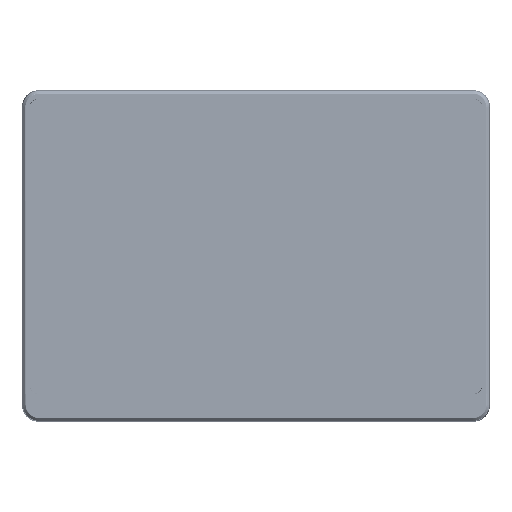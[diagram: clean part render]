
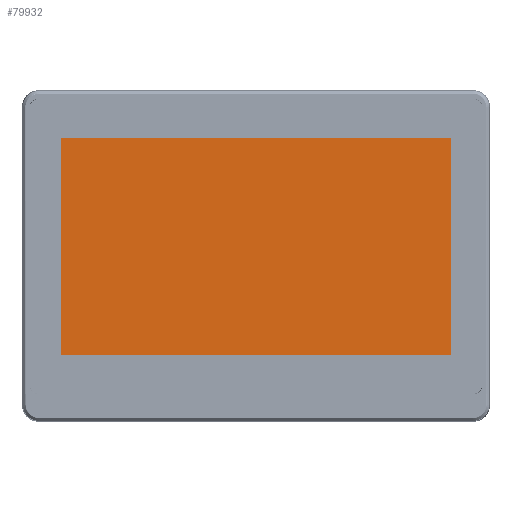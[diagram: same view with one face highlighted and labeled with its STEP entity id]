
A CAD part, top view. The second image highlights one B-rep face of the part: STEP entity #79932.
In plain terms, the highlighted planar face has unit normal (0, 0, 1).
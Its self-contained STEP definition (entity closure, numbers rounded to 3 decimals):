
#5214=DIRECTION('',(0.,1.,0.));
#5215=VECTOR('',#5214,85.92);
#5216=CARTESIAN_POINT('',(-77.105,-39.16,-0.2));
#5217=LINE('',#5216,#5215);
#5218=DIRECTION('',(1.,0.,0.));
#5219=VECTOR('',#5218,154.21);
#5220=CARTESIAN_POINT('',(-77.105,46.76,-0.2));
#5221=LINE('',#5220,#5219);
#5222=DIRECTION('',(0.,-1.,0.));
#5223=VECTOR('',#5222,85.92);
#5224=CARTESIAN_POINT('',(77.105,46.76,-0.2));
#5225=LINE('',#5224,#5223);
#5226=DIRECTION('',(-1.,0.,0.));
#5227=VECTOR('',#5226,154.21);
#5228=CARTESIAN_POINT('',(77.105,-39.16,-0.2));
#5229=LINE('',#5228,#5227);
#71865=CARTESIAN_POINT('',(-77.105,46.76,-0.2));
#71866=VERTEX_POINT('',#71865);
#71867=CARTESIAN_POINT('',(-77.105,-39.16,-0.2));
#71868=VERTEX_POINT('',#71867);
#71869=CARTESIAN_POINT('',(77.105,46.76,-0.2));
#71870=VERTEX_POINT('',#71869);
#71871=CARTESIAN_POINT('',(77.105,-39.16,-0.2));
#71872=VERTEX_POINT('',#71871);
#79921=CARTESIAN_POINT('',(0.,3.8,-0.2));
#79922=DIRECTION('',(0.,0.,1.));
#79923=DIRECTION('',(-1.,0.,0.));
#79924=AXIS2_PLACEMENT_3D('',#79921,#79922,#79923);
#79925=PLANE('',#79924);
#79926=ORIENTED_EDGE('',*,*,#79873,.T.);
#79927=ORIENTED_EDGE('',*,*,#79888,.T.);
#79928=ORIENTED_EDGE('',*,*,#79902,.T.);
#79929=ORIENTED_EDGE('',*,*,#79915,.T.);
#79930=EDGE_LOOP('',(#79926,#79927,#79928,#79929));
#79931=FACE_OUTER_BOUND('',#79930,.F.);
#79932=ADVANCED_FACE('',(#79931),#79925,.T.);
#79873=EDGE_CURVE('',#71868,#71866,#5217,.T.);
#79888=EDGE_CURVE('',#71866,#71870,#5221,.T.);
#79902=EDGE_CURVE('',#71870,#71872,#5225,.T.);
#79915=EDGE_CURVE('',#71872,#71868,#5229,.T.);
